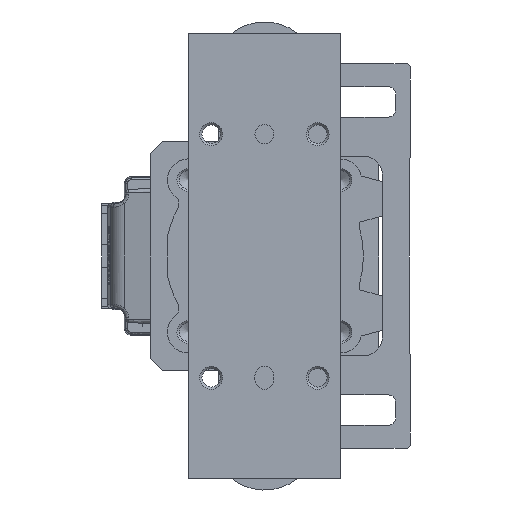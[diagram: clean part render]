
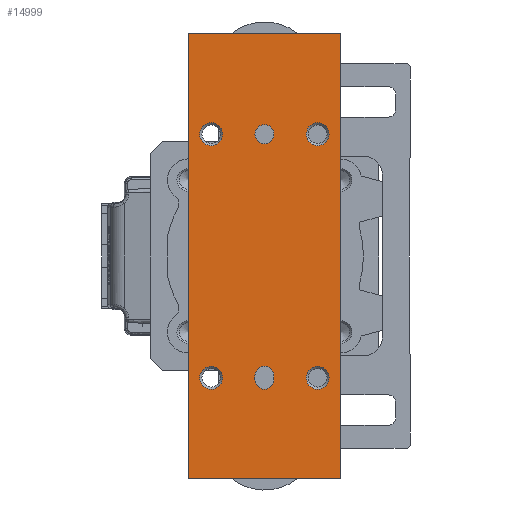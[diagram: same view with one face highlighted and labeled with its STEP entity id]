
A CAD part, left-side view. The second image highlights one B-rep face of the part: STEP entity #14999.
In plain terms, the highlighted planar face has unit normal (-1, 0, 0) as drawn and (0, 0, 1) by its records, which use the part's own axes.
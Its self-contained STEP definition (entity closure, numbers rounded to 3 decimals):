
#32 = CIRCLE ( 'NONE', #36926, 2.5 ) ;
#164 = CIRCLE ( 'NONE', #49102, 2.5 ) ;
#2177 = FACE_OUTER_BOUND ( 'NONE', #7166, .T. ) ;
#2379 = CARTESIAN_POINT ( 'NONE',  ( -58.5, -20., 28.5 ) ) ;
#2440 = FACE_BOUND ( 'NONE', #47620, .T. ) ;
#2613 = CARTESIAN_POINT ( 'NONE',  ( 34.5, 0., 28.5 ) ) ;
#2707 = FACE_BOUND ( 'NONE', #26707, .T. ) ;
#2902 = CARTESIAN_POINT ( 'NONE',  ( 32., 0., 28.5 ) ) ;
#2981 = FACE_BOUND ( 'NONE', #10976, .T. ) ;
#3315 = DIRECTION ( 'NONE',  ( 0., 1., 0. ) ) ;
#3494 = CARTESIAN_POINT ( 'NONE',  ( 58.5, -20., 28.5 ) ) ;
#3586 = DIRECTION ( 'NONE',  ( 1., 0., 0. ) ) ;
#3884 = VERTEX_POINT ( 'NONE', #9000 ) ;
#4028 = VERTEX_POINT ( 'NONE', #40804 ) ;
#4124 = CARTESIAN_POINT ( 'NONE',  ( -58.5, 20., 28.5 ) ) ;
#4669 = CARTESIAN_POINT ( 'NONE',  ( -35., -14., 28.5 ) ) ;
#5131 = VECTOR ( 'NONE', #10393, 1000. ) ;
#5392 = CIRCLE ( 'NONE', #43171, 3. ) ;
#5407 = EDGE_CURVE ( 'NONE', #34793, #28624, #47709, .T. ) ;
#6750 = DIRECTION ( 'NONE',  ( 0., 0., -1. ) ) ;
#7016 = FACE_BOUND ( 'NONE', #46254, .T. ) ;
#7147 = AXIS2_PLACEMENT_3D ( 'NONE', #23248, #34822, #31604 ) ;
#7166 = EDGE_LOOP ( 'NONE', ( #7741, #7277, #7709, #43165 ) ) ;
#7200 = DIRECTION ( 'NONE',  ( 1., 0., 0. ) ) ;
#7277 = ORIENTED_EDGE ( 'NONE', *, *, #24252, .T. ) ;
#7296 = VECTOR ( 'NONE', #31424, 1000. ) ;
#7709 = ORIENTED_EDGE ( 'NONE', *, *, #49407, .T. ) ;
#7741 = ORIENTED_EDGE ( 'NONE', *, *, #5407, .T. ) ;
#8721 = AXIS2_PLACEMENT_3D ( 'NONE', #47347, #6750, #39514 ) ;
#8995 = ORIENTED_EDGE ( 'NONE', *, *, #50029, .F. ) ;
#9000 = CARTESIAN_POINT ( 'NONE',  ( -35., 14., 28.5 ) ) ;
#9263 = CIRCLE ( 'NONE', #10104, 2.5 ) ;
#10104 = AXIS2_PLACEMENT_3D ( 'NONE', #52532, #23758, #3586 ) ;
#10393 = DIRECTION ( 'NONE',  ( 1., 0., 0. ) ) ;
#10976 = EDGE_LOOP ( 'NONE', ( #11204 ) ) ;
#11010 = DIRECTION ( 'NONE',  ( 0., 0., 1. ) ) ;
#11056 = FACE_BOUND ( 'NONE', #20173, .T. ) ;
#11105 = EDGE_CURVE ( 'NONE', #52092, #52092, #164, .T. ) ;
#11204 = ORIENTED_EDGE ( 'NONE', *, *, #38296, .T. ) ;
#12534 = VECTOR ( 'NONE', #24748, 1000. ) ;
#12657 = CARTESIAN_POINT ( 'NONE',  ( -32.5, -2.5, 28.5 ) ) ;
#14999 = ADVANCED_FACE ( 'NONE', ( #2440, #43823, #2707, #2981, #7016, #2177, #11056 ), #18553, .F. ) ;
#15005 = LINE ( 'NONE', #2379, #7296 ) ;
#15019 = CARTESIAN_POINT ( 'NONE',  ( -32.5, 0., 28.5 ) ) ;
#15071 = DIRECTION ( 'NONE',  ( 0., 0., -1. ) ) ;
#15851 = CARTESIAN_POINT ( 'NONE',  ( -31.5, 2.5, 28.5 ) ) ;
#15867 = CARTESIAN_POINT ( 'NONE',  ( -32.5, -2.5, 28.5 ) ) ;
#18553 = PLANE ( 'NONE',  #8721 ) ;
#18797 = CARTESIAN_POINT ( 'NONE',  ( -32.5, 2.5, 28.5 ) ) ;
#18964 = VECTOR ( 'NONE', #41521, 1000. ) ;
#19777 = VERTEX_POINT ( 'NONE', #15851 ) ;
#20000 = CIRCLE ( 'NONE', #7147, 3. ) ;
#20173 = EDGE_LOOP ( 'NONE', ( #40296, #32875, #44733, #8995 ) ) ;
#22979 = EDGE_CURVE ( 'NONE', #47983, #34793, #51243, .T. ) ;
#23248 = CARTESIAN_POINT ( 'NONE',  ( -32., 14., 28.5 ) ) ;
#23758 = DIRECTION ( 'NONE',  ( 0., 0., 1. ) ) ;
#24252 = EDGE_CURVE ( 'NONE', #28624, #24559, #29177, .T. ) ;
#24559 = VERTEX_POINT ( 'NONE', #4124 ) ;
#24656 = AXIS2_PLACEMENT_3D ( 'NONE', #36882, #49542, #29111 ) ;
#24748 = DIRECTION ( 'NONE',  ( 1., 0., 0. ) ) ;
#25132 = EDGE_CURVE ( 'NONE', #30636, #48043, #32, .T. ) ;
#26707 = EDGE_LOOP ( 'NONE', ( #40425 ) ) ;
#28339 = VECTOR ( 'NONE', #47233, 1000. ) ;
#28498 = CARTESIAN_POINT ( 'NONE',  ( -58.5, -20., 28.5 ) ) ;
#28624 = VERTEX_POINT ( 'NONE', #41267 ) ;
#29111 = DIRECTION ( 'NONE',  ( -1., 0., 0. ) ) ;
#29177 = LINE ( 'NONE', #46094, #18964 ) ;
#29522 = ORIENTED_EDGE ( 'NONE', *, *, #11105, .F. ) ;
#30636 = VERTEX_POINT ( 'NONE', #18797 ) ;
#31250 = ORIENTED_EDGE ( 'NONE', *, *, #47939, .T. ) ;
#31424 = DIRECTION ( 'NONE',  ( 0., -1., 0. ) ) ;
#31604 = DIRECTION ( 'NONE',  ( -1., 0., 0. ) ) ;
#31708 = DIRECTION ( 'NONE',  ( 1., 0., 0. ) ) ;
#32875 = ORIENTED_EDGE ( 'NONE', *, *, #36261, .F. ) ;
#34793 = VERTEX_POINT ( 'NONE', #3494 ) ;
#34822 = DIRECTION ( 'NONE',  ( 0., 0., -1. ) ) ;
#35230 = CARTESIAN_POINT ( 'NONE',  ( 32., 14., 28.5 ) ) ;
#35417 = DIRECTION ( 'NONE',  ( 0., 0., 1. ) ) ;
#36261 = EDGE_CURVE ( 'NONE', #19777, #30636, #38607, .T. ) ;
#36361 = EDGE_CURVE ( 'NONE', #41484, #41484, #39526, .T. ) ;
#36882 = CARTESIAN_POINT ( 'NONE',  ( 32., -14., 28.5 ) ) ;
#36926 = AXIS2_PLACEMENT_3D ( 'NONE', #15019, #11010, #31708 ) ;
#37485 = EDGE_LOOP ( 'NONE', ( #43379 ) ) ;
#38296 = EDGE_CURVE ( 'NONE', #3884, #3884, #20000, .T. ) ;
#38607 = LINE ( 'NONE', #46702, #28339 ) ;
#39497 = CARTESIAN_POINT ( 'NONE',  ( 29., -14., 28.5 ) ) ;
#39514 = DIRECTION ( 'NONE',  ( -1., 0., 0. ) ) ;
#39521 = DIRECTION ( 'NONE',  ( -1., 0., 0. ) ) ;
#39526 = CIRCLE ( 'NONE', #49874, 3. ) ;
#40296 = ORIENTED_EDGE ( 'NONE', *, *, #25132, .F. ) ;
#40382 = CARTESIAN_POINT ( 'NONE',  ( 58.5, -20., 28.5 ) ) ;
#40425 = ORIENTED_EDGE ( 'NONE', *, *, #36361, .T. ) ;
#40804 = CARTESIAN_POINT ( 'NONE',  ( -31.5, -2.5, 28.5 ) ) ;
#41267 = CARTESIAN_POINT ( 'NONE',  ( 58.5, 20., 28.5 ) ) ;
#41484 = VERTEX_POINT ( 'NONE', #4669 ) ;
#41521 = DIRECTION ( 'NONE',  ( -1., 0., 0. ) ) ;
#41801 = EDGE_CURVE ( 'NONE', #49048, #49048, #41808, .T. ) ;
#41808 = CIRCLE ( 'NONE', #24656, 3. ) ;
#43000 = VERTEX_POINT ( 'NONE', #50098 ) ;
#43164 = EDGE_CURVE ( 'NONE', #4028, #19777, #9263, .T. ) ;
#43165 = ORIENTED_EDGE ( 'NONE', *, *, #22979, .T. ) ;
#43171 = AXIS2_PLACEMENT_3D ( 'NONE', #35230, #15071, #39521 ) ;
#43379 = ORIENTED_EDGE ( 'NONE', *, *, #41801, .T. ) ;
#43823 = FACE_BOUND ( 'NONE', #37485, .T. ) ;
#44733 = ORIENTED_EDGE ( 'NONE', *, *, #43164, .F. ) ;
#46094 = CARTESIAN_POINT ( 'NONE',  ( -58.5, 20., 28.5 ) ) ;
#46254 = EDGE_LOOP ( 'NONE', ( #29522 ) ) ;
#46702 = CARTESIAN_POINT ( 'NONE',  ( -32.5, 2.5, 28.5 ) ) ;
#47221 = CARTESIAN_POINT ( 'NONE',  ( -58.5, -20., 28.5 ) ) ;
#47233 = DIRECTION ( 'NONE',  ( -1., 0., 0. ) ) ;
#47347 = CARTESIAN_POINT ( 'NONE',  ( 0., 0., 28.5 ) ) ;
#47620 = EDGE_LOOP ( 'NONE', ( #31250 ) ) ;
#47639 = VECTOR ( 'NONE', #3315, 1000. ) ;
#47709 = LINE ( 'NONE', #40382, #47639 ) ;
#47939 = EDGE_CURVE ( 'NONE', #43000, #43000, #5392, .T. ) ;
#47983 = VERTEX_POINT ( 'NONE', #28498 ) ;
#48043 = VERTEX_POINT ( 'NONE', #15867 ) ;
#49048 = VERTEX_POINT ( 'NONE', #39497 ) ;
#49102 = AXIS2_PLACEMENT_3D ( 'NONE', #2902, #35417, #7200 ) ;
#49407 = EDGE_CURVE ( 'NONE', #24559, #47983, #15005, .T. ) ;
#49488 = LINE ( 'NONE', #12657, #12534 ) ;
#49542 = DIRECTION ( 'NONE',  ( 0., 0., -1. ) ) ;
#49874 = AXIS2_PLACEMENT_3D ( 'NONE', #52070, #53118, #52595 ) ;
#50029 = EDGE_CURVE ( 'NONE', #48043, #4028, #49488, .T. ) ;
#50098 = CARTESIAN_POINT ( 'NONE',  ( 29., 14., 28.5 ) ) ;
#51243 = LINE ( 'NONE', #47221, #5131 ) ;
#52070 = CARTESIAN_POINT ( 'NONE',  ( -32., -14., 28.5 ) ) ;
#52092 = VERTEX_POINT ( 'NONE', #2613 ) ;
#52532 = CARTESIAN_POINT ( 'NONE',  ( -31.5, 0., 28.5 ) ) ;
#52595 = DIRECTION ( 'NONE',  ( -1., 0., 0. ) ) ;
#53118 = DIRECTION ( 'NONE',  ( 0., 0., -1. ) ) ;
